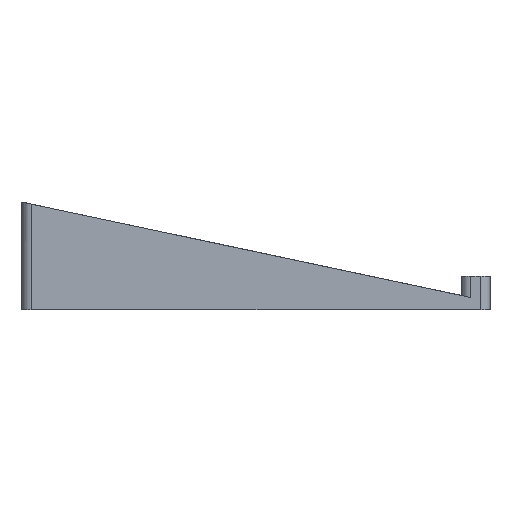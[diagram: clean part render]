
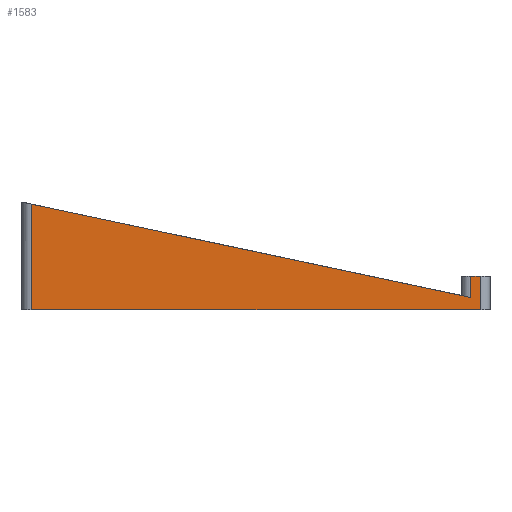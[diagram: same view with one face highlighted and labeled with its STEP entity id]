
A CAD part, left-side view. The second image highlights one B-rep face of the part: STEP entity #1583.
In plain terms, the highlighted planar face has unit normal (-1, 0, 0).
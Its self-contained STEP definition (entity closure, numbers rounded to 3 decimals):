
#32 = PLANE('',#33);
#33 = AXIS2_PLACEMENT_3D('',#34,#35,#36);
#34 = CARTESIAN_POINT('',(0.,-6.,0.));
#35 = DIRECTION('',(0.,0.,1.));
#36 = DIRECTION('',(0.,1.,0.));
#171 = VERTEX_POINT('',#172);
#172 = CARTESIAN_POINT('',(0.,89.,0.));
#191 = CYLINDRICAL_SURFACE('',#192,2.);
#192 = AXIS2_PLACEMENT_3D('',#193,#194,#195);
#193 = CARTESIAN_POINT('',(2.,89.,0.));
#194 = DIRECTION('',(0.,0.,1.));
#195 = DIRECTION('',(-1.,0.,0.));
#203 = EDGE_CURVE('',#204,#171,#206,.T.);
#204 = VERTEX_POINT('',#205);
#205 = CARTESIAN_POINT('',(0.,-4.,0.));
#206 = SURFACE_CURVE('',#207,(#211,#218),.PCURVE_S1.);
#207 = LINE('',#208,#209);
#208 = CARTESIAN_POINT('',(0.,-6.,0.));
#209 = VECTOR('',#210,1.);
#210 = DIRECTION('',(0.,1.,0.));
#211 = PCURVE('',#32,#212);
#212 = DEFINITIONAL_REPRESENTATION('',(#213),#217);
#213 = LINE('',#214,#215);
#214 = CARTESIAN_POINT('',(0.,0.));
#215 = VECTOR('',#216,1.);
#216 = DIRECTION('',(1.,0.));
#217 = ( GEOMETRIC_REPRESENTATION_CONTEXT(2) 
PARAMETRIC_REPRESENTATION_CONTEXT() REPRESENTATION_CONTEXT('2D SPACE',''
  ) );
#218 = PCURVE('',#219,#224);
#219 = PLANE('',#220);
#220 = AXIS2_PLACEMENT_3D('',#221,#222,#223);
#221 = CARTESIAN_POINT('',(0.,45.03,6.605));
#222 = DIRECTION('',(1.,0.,0.));
#223 = DIRECTION('',(-0.,0.,1.));
#224 = DEFINITIONAL_REPRESENTATION('',(#225),#229);
#225 = LINE('',#226,#227);
#226 = CARTESIAN_POINT('',(-6.605,51.03));
#227 = VECTOR('',#228,1.);
#228 = DIRECTION('',(0.,-1.));
#229 = ( GEOMETRIC_REPRESENTATION_CONTEXT(2) 
PARAMETRIC_REPRESENTATION_CONTEXT() REPRESENTATION_CONTEXT('2D SPACE',''
  ) );
#250 = CYLINDRICAL_SURFACE('',#251,2.);
#251 = AXIS2_PLACEMENT_3D('',#252,#253,#254);
#252 = CARTESIAN_POINT('',(2.,-4.,7.));
#253 = DIRECTION('',(0.,0.,-1.));
#254 = DIRECTION('',(0.,-1.,-0.));
#516 = PLANE('',#517);
#517 = AXIS2_PLACEMENT_3D('',#518,#519,#520);
#518 = CARTESIAN_POINT('',(0.,91.,22.343));
#519 = DIRECTION('',(0.,0.208,-0.978));
#520 = DIRECTION('',(0.,-0.978,-0.208));
#717 = VERTEX_POINT('',#718);
#718 = CARTESIAN_POINT('',(0.,-2.,2.575));
#733 = CYLINDRICAL_SURFACE('',#734,2.);
#734 = AXIS2_PLACEMENT_3D('',#735,#736,#737);
#735 = CARTESIAN_POINT('',(2.,-2.,3.));
#736 = DIRECTION('',(0.,0.,1.));
#737 = DIRECTION('',(-1.,0.,0.));
#748 = EDGE_CURVE('',#717,#749,#751,.T.);
#749 = VERTEX_POINT('',#750);
#750 = CARTESIAN_POINT('',(0.,89.,21.918));
#751 = SURFACE_CURVE('',#752,(#756,#763),.PCURVE_S1.);
#752 = LINE('',#753,#754);
#753 = CARTESIAN_POINT('',(0.,-2.,2.575));
#754 = VECTOR('',#755,1.);
#755 = DIRECTION('',(0.,0.978,0.208));
#756 = PCURVE('',#516,#757);
#757 = DEFINITIONAL_REPRESENTATION('',(#758),#762);
#758 = LINE('',#759,#760);
#759 = CARTESIAN_POINT('',(95.078,0.));
#760 = VECTOR('',#761,1.);
#761 = DIRECTION('',(-1.,0.));
#762 = ( GEOMETRIC_REPRESENTATION_CONTEXT(2) 
PARAMETRIC_REPRESENTATION_CONTEXT() REPRESENTATION_CONTEXT('2D SPACE',''
  ) );
#763 = PCURVE('',#219,#764);
#764 = DEFINITIONAL_REPRESENTATION('',(#765),#769);
#765 = LINE('',#766,#767);
#766 = CARTESIAN_POINT('',(-4.03,47.03));
#767 = VECTOR('',#768,1.);
#768 = DIRECTION('',(0.208,-0.978));
#769 = ( GEOMETRIC_REPRESENTATION_CONTEXT(2) 
PARAMETRIC_REPRESENTATION_CONTEXT() REPRESENTATION_CONTEXT('2D SPACE',''
  ) );
#1008 = VERTEX_POINT('',#1009);
#1009 = CARTESIAN_POINT('',(0.,-2.,7.));
#1024 = PLANE('',#1025);
#1025 = AXIS2_PLACEMENT_3D('',#1026,#1027,#1028);
#1026 = CARTESIAN_POINT('',(0.,0.,7.));
#1027 = DIRECTION('',(0.,0.,-1.));
#1028 = DIRECTION('',(0.,-1.,0.));
#1036 = EDGE_CURVE('',#717,#1008,#1037,.T.);
#1037 = SURFACE_CURVE('',#1038,(#1042,#1049),.PCURVE_S1.);
#1038 = LINE('',#1039,#1040);
#1039 = CARTESIAN_POINT('',(0.,-2.,3.));
#1040 = VECTOR('',#1041,1.);
#1041 = DIRECTION('',(0.,0.,1.));
#1042 = PCURVE('',#733,#1043);
#1043 = DEFINITIONAL_REPRESENTATION('',(#1044),#1048);
#1044 = LINE('',#1045,#1046);
#1045 = CARTESIAN_POINT('',(-0.,0.));
#1046 = VECTOR('',#1047,1.);
#1047 = DIRECTION('',(-0.,1.));
#1048 = ( GEOMETRIC_REPRESENTATION_CONTEXT(2) 
PARAMETRIC_REPRESENTATION_CONTEXT() REPRESENTATION_CONTEXT('2D SPACE',''
  ) );
#1049 = PCURVE('',#219,#1050);
#1050 = DEFINITIONAL_REPRESENTATION('',(#1051),#1055);
#1051 = LINE('',#1052,#1053);
#1052 = CARTESIAN_POINT('',(-3.605,47.03));
#1053 = VECTOR('',#1054,1.);
#1054 = DIRECTION('',(1.,0.));
#1055 = ( GEOMETRIC_REPRESENTATION_CONTEXT(2) 
PARAMETRIC_REPRESENTATION_CONTEXT() REPRESENTATION_CONTEXT('2D SPACE',''
  ) );
#1186 = VERTEX_POINT('',#1187);
#1187 = CARTESIAN_POINT('',(0.,-4.,7.));
#1209 = EDGE_CURVE('',#1008,#1186,#1210,.T.);
#1210 = SURFACE_CURVE('',#1211,(#1215,#1222),.PCURVE_S1.);
#1211 = LINE('',#1212,#1213);
#1212 = CARTESIAN_POINT('',(0.,0.,7.));
#1213 = VECTOR('',#1214,1.);
#1214 = DIRECTION('',(0.,-1.,0.));
#1215 = PCURVE('',#1024,#1216);
#1216 = DEFINITIONAL_REPRESENTATION('',(#1217),#1221);
#1217 = LINE('',#1218,#1219);
#1218 = CARTESIAN_POINT('',(0.,-0.));
#1219 = VECTOR('',#1220,1.);
#1220 = DIRECTION('',(1.,0.));
#1221 = ( GEOMETRIC_REPRESENTATION_CONTEXT(2) 
PARAMETRIC_REPRESENTATION_CONTEXT() REPRESENTATION_CONTEXT('2D SPACE',''
  ) );
#1222 = PCURVE('',#219,#1223);
#1223 = DEFINITIONAL_REPRESENTATION('',(#1224),#1228);
#1224 = LINE('',#1225,#1226);
#1225 = CARTESIAN_POINT('',(0.395,45.03));
#1226 = VECTOR('',#1227,1.);
#1227 = DIRECTION('',(0.,1.));
#1228 = ( GEOMETRIC_REPRESENTATION_CONTEXT(2) 
PARAMETRIC_REPRESENTATION_CONTEXT() REPRESENTATION_CONTEXT('2D SPACE',''
  ) );
#1534 = EDGE_CURVE('',#171,#749,#1535,.T.);
#1535 = SURFACE_CURVE('',#1536,(#1540,#1547),.PCURVE_S1.);
#1536 = LINE('',#1537,#1538);
#1537 = CARTESIAN_POINT('',(0.,89.,0.));
#1538 = VECTOR('',#1539,1.);
#1539 = DIRECTION('',(0.,0.,1.));
#1540 = PCURVE('',#191,#1541);
#1541 = DEFINITIONAL_REPRESENTATION('',(#1542),#1546);
#1542 = LINE('',#1543,#1544);
#1543 = CARTESIAN_POINT('',(-0.,0.));
#1544 = VECTOR('',#1545,1.);
#1545 = DIRECTION('',(-0.,1.));
#1546 = ( GEOMETRIC_REPRESENTATION_CONTEXT(2) 
PARAMETRIC_REPRESENTATION_CONTEXT() REPRESENTATION_CONTEXT('2D SPACE',''
  ) );
#1547 = PCURVE('',#219,#1548);
#1548 = DEFINITIONAL_REPRESENTATION('',(#1549),#1553);
#1549 = LINE('',#1550,#1551);
#1550 = CARTESIAN_POINT('',(-6.605,-43.97));
#1551 = VECTOR('',#1552,1.);
#1552 = DIRECTION('',(1.,0.));
#1553 = ( GEOMETRIC_REPRESENTATION_CONTEXT(2) 
PARAMETRIC_REPRESENTATION_CONTEXT() REPRESENTATION_CONTEXT('2D SPACE',''
  ) );
#1583 = ADVANCED_FACE('',(#1584),#219,.F.);
#1584 = FACE_BOUND('',#1585,.F.);
#1585 = EDGE_LOOP('',(#1586,#1587,#1588,#1589,#1590,#1591));
#1586 = ORIENTED_EDGE('',*,*,#203,.T.);
#1587 = ORIENTED_EDGE('',*,*,#1534,.T.);
#1588 = ORIENTED_EDGE('',*,*,#748,.F.);
#1589 = ORIENTED_EDGE('',*,*,#1036,.T.);
#1590 = ORIENTED_EDGE('',*,*,#1209,.T.);
#1591 = ORIENTED_EDGE('',*,*,#1592,.T.);
#1592 = EDGE_CURVE('',#1186,#204,#1593,.T.);
#1593 = SURFACE_CURVE('',#1594,(#1598,#1605),.PCURVE_S1.);
#1594 = LINE('',#1595,#1596);
#1595 = CARTESIAN_POINT('',(0.,-4.,7.));
#1596 = VECTOR('',#1597,1.);
#1597 = DIRECTION('',(0.,0.,-1.));
#1598 = PCURVE('',#219,#1599);
#1599 = DEFINITIONAL_REPRESENTATION('',(#1600),#1604);
#1600 = LINE('',#1601,#1602);
#1601 = CARTESIAN_POINT('',(0.395,49.03));
#1602 = VECTOR('',#1603,1.);
#1603 = DIRECTION('',(-1.,0.));
#1604 = ( GEOMETRIC_REPRESENTATION_CONTEXT(2) 
PARAMETRIC_REPRESENTATION_CONTEXT() REPRESENTATION_CONTEXT('2D SPACE',''
  ) );
#1605 = PCURVE('',#250,#1606);
#1606 = DEFINITIONAL_REPRESENTATION('',(#1607),#1611);
#1607 = LINE('',#1608,#1609);
#1608 = CARTESIAN_POINT('',(1.571,0.));
#1609 = VECTOR('',#1610,1.);
#1610 = DIRECTION('',(0.,1.));
#1611 = ( GEOMETRIC_REPRESENTATION_CONTEXT(2) 
PARAMETRIC_REPRESENTATION_CONTEXT() REPRESENTATION_CONTEXT('2D SPACE',''
  ) );
